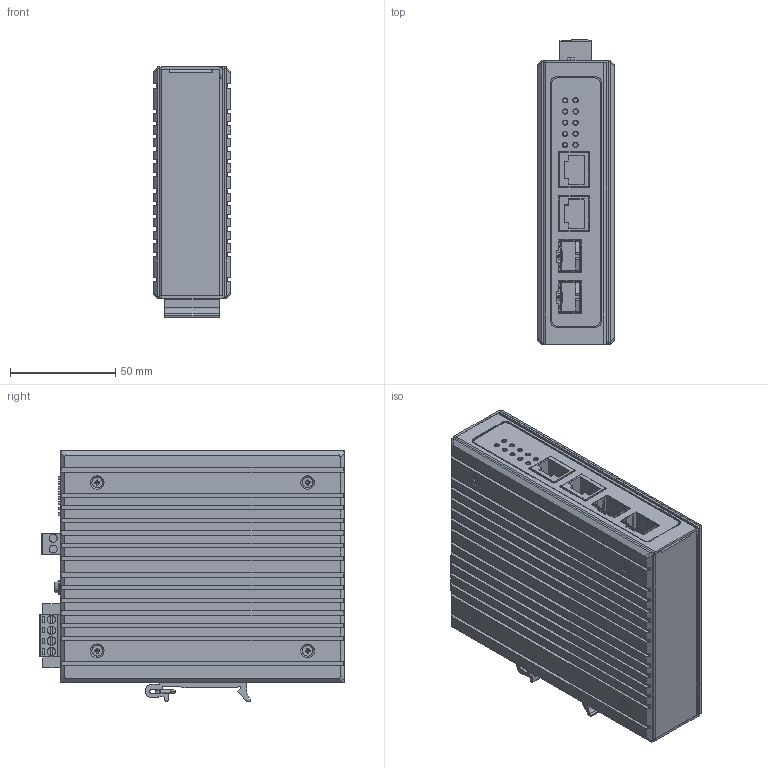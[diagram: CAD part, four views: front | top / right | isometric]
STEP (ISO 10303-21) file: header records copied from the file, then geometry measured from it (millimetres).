
FILE_DESCRIPTION(/* description */ ('STEP AP242 Edition 2','CAx-IF Rec.Pracs.---Representation and Presentation of Product Manufacturing Information (PMI)---4.0---2014-10-13','CAx-IF Rec.Pracs.---3D Tessellated Geometry---0.4---2014-09-14','2;1','CAx-IF Rec.Pracs.---User Defined Attributes---1.5---2016-08-15'),/* implementation_level */ '2;1');
FILE_NAME(/* name */ '69e12782d61d24a4612b85d6',/* time_stamp */ '2026-04-16T18:16:37Z',/* author */ (''),/* organization */ (''),/* preprocessor_version */ 'ST-DEVELOPER v20',/* originating_system */ 'ONSHAPE BY PTC INC, 1.213',/* authorisation */ ' ');
FILE_SCHEMA (('AP242_MANAGED_MODEL_BASED_3D_ENGINEERING_MIM_LF { 1 0 10303 442 3 1 4 }'));
Products named in the file (34): EMC-22GP-1 - 2+2 Flex PoE+ 10/100/1G Industrial Ethernet Media Conver
ter, SFP (100/1G) 12-57VDC; Screw; Housing; Ethernet; Terminal Block 4P; Ground Screw; SFP; Terminal Block 2P; Cover Plate; Nut; DIN Rail Clip; DIP switch SPST 82; Mount; Front Label
Assembly tree (33 placements, depth 2):
  EMC-22GP-1 - 2+2 Flex PoE+ 10/100/1G Industrial Ethernet Media Conver
ter, SFP (100/1G) 12-57VDC
    Screw
    Screw
    Housing
    Screw
    Ethernet
    Screw
    Ethernet
    Terminal Block 4P
    Screw
    Ground Screw
    Screw
    SFP
    Terminal Block 2P
    Cover Plate
    Nut
    SFP
    DIN Rail Clip
    DIP switch SPST 82
    Mount
    Front Label
    DIN Rail Clip
    Screw
    SFP
    Screw
    Screw
    DIN Rail Clip
    SFP
    Screw
    Nut
    Housing
    Terminal Block 2P
    Cover Plate
    Terminal Block 4P
Bounding box: 37 x 144.88 x 119.15 mm (x, y, z)
Volume: 144911 mm3; surface area: 198778.7 mm2
Topology: 30 solids, 37 shells, 3142 faces, 8588 edges, 5622 vertices
Faces by surface type: plane 2319, cylinder 561, bspline 164, cone 64, torus 32, sphere 2
Full cylindrical faces by diameter (mm): 0.5 x4, 0.9 x16, 1.207 x4, 1.5 x4, 1.55 x4, 1.8 x26, 2 x10, 2.02 x2, 2.4 x4, 2.5 x11, 2.8 x6, 2.88 x7, 2.9 x8, 3 x35, 3.2 x10, 3.25 x2, 3.5 x1, 3.7 x2, 3.8 x3, 3.9 x4, 4 x16, 4.8 x1, 5 x9, 6 x25
Entity records: 114797 total; most frequent: CARTESIAN_POINT 35940, ORIENTED_EDGE 16408, DIRECTION 15117, EDGE_CURVE 8207, LINE 6279, VECTOR 6279, VERTEX_POINT 5510, AXIS2_PLACEMENT_3D 4419
